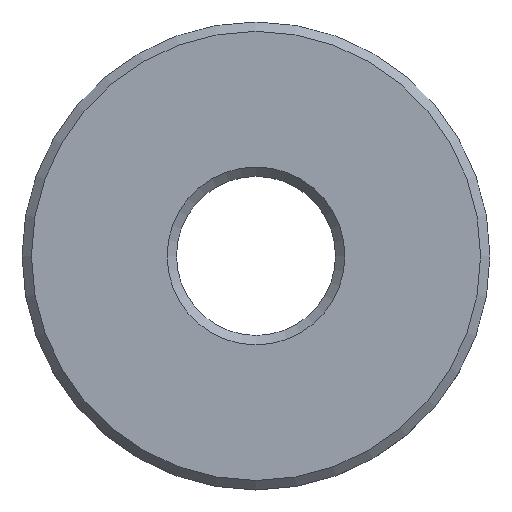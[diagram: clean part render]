
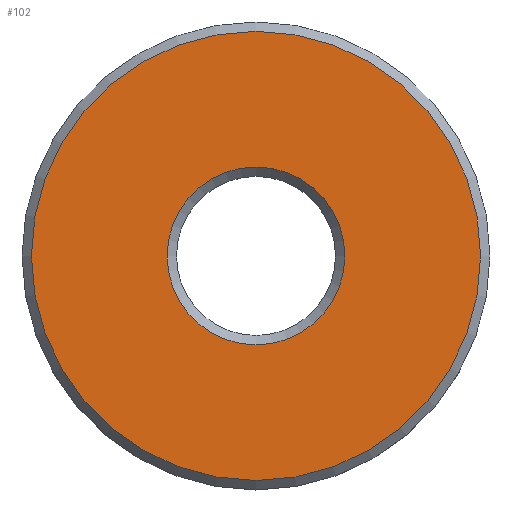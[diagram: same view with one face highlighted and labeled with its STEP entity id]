
A CAD part, top view. The second image highlights one B-rep face of the part: STEP entity #102.
In plain terms, the highlighted planar face has unit normal (0, 0, 1).
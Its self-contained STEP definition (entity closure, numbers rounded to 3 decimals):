
#102=ADVANCED_FACE('',(#112,#113),#110,.T.);
#110=PLANE('',#187);
#112=FACE_BOUND('',#128,.T.);
#113=FACE_BOUND('',#129,.T.);
#128=EDGE_LOOP('',(#144));
#129=EDGE_LOOP('',(#145));
#144=ORIENTED_EDGE('',*,*,#168,.T.);
#145=ORIENTED_EDGE('',*,*,#169,.T.);
#160=VERTEX_POINT('',#237);
#161=VERTEX_POINT('',#239);
#168=EDGE_CURVE('',#160,#160,#176,.T.);
#169=EDGE_CURVE('',#161,#161,#177,.T.);
#176=CIRCLE('',#185,4.75);
#177=CIRCLE('',#186,12.);
#185=AXIS2_PLACEMENT_3D('',#236,#203,#204);
#186=AXIS2_PLACEMENT_3D('',#238,#205,#206);
#187=AXIS2_PLACEMENT_3D('',#240,#207,#208);
#203=DIRECTION('',(0.,0.,-1.));
#204=DIRECTION('',(1.,0.,0.));
#205=DIRECTION('',(0.,0.,1.));
#206=DIRECTION('',(1.,0.,0.));
#207=DIRECTION('',(0.,0.,1.));
#208=DIRECTION('',(1.,0.,0.));
#236=CARTESIAN_POINT('',(0.,0.,5.));
#237=CARTESIAN_POINT('',(4.75,0.,5.));
#238=CARTESIAN_POINT('',(0.,0.,5.));
#239=CARTESIAN_POINT('',(12.,0.,5.));
#240=CARTESIAN_POINT('',(0.,0.,5.));
